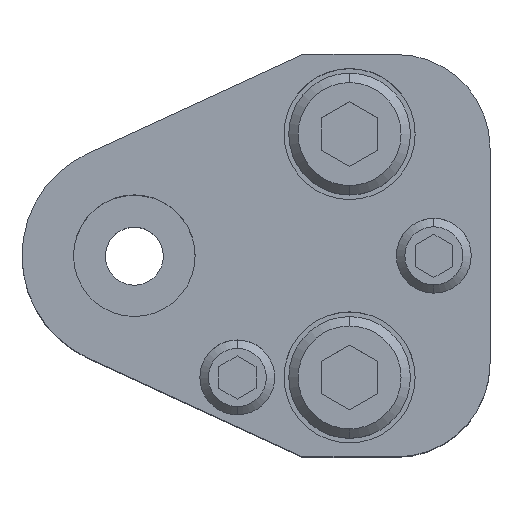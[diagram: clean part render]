
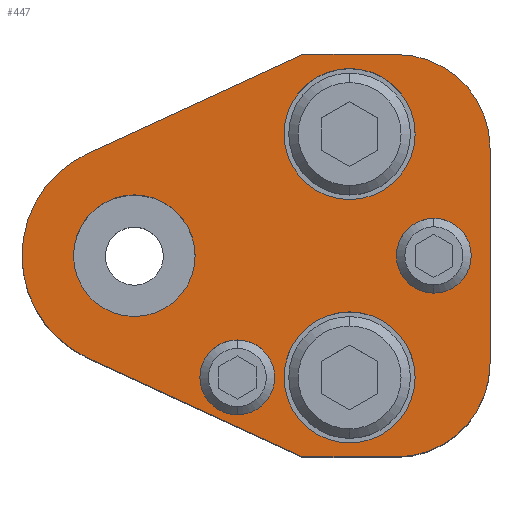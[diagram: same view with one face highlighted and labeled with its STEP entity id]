
A CAD part, top view. The second image highlights one B-rep face of the part: STEP entity #447.
In plain terms, the highlighted planar face has unit normal (0, 0, 1).
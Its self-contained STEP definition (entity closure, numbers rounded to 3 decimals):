
#206=FACE_BOUND('',#807,.T.);
#207=FACE_BOUND('',#808,.T.);
#208=FACE_BOUND('',#809,.T.);
#209=FACE_BOUND('',#810,.T.);
#210=FACE_BOUND('',#811,.T.);
#211=FACE_BOUND('',#812,.T.);
#269=CIRCLE('',#2664,10.);
#271=CIRCLE('',#2668,10.);
#274=CIRCLE('',#2673,12.);
#275=CIRCLE('',#2678,4.);
#277=CIRCLE('',#2681,4.);
#279=CIRCLE('',#2684,4.);
#281=CIRCLE('',#2687,4.);
#291=CIRCLE('',#2702,7.);
#292=CIRCLE('',#2703,7.);
#293=CIRCLE('',#2704,7.);
#294=CIRCLE('',#2705,7.);
#295=CIRCLE('',#2706,6.5);
#296=CIRCLE('',#2707,6.5);
#447=ADVANCED_FACE('',(#206,#207,#208,#209,#210,#211),#578,.T.);
#578=PLANE('',#2708);
#807=EDGE_LOOP('',(#1148,#1149,#1150,#1151,#1152,#1153,#1154,#1155));
#808=EDGE_LOOP('',(#1156,#1157));
#809=EDGE_LOOP('',(#1158,#1159));
#810=EDGE_LOOP('',(#1160,#1161));
#811=EDGE_LOOP('',(#1162,#1163));
#812=EDGE_LOOP('',(#1164,#1165));
#1148=ORIENTED_EDGE('',*,*,#1952,.T.);
#1149=ORIENTED_EDGE('',*,*,#1961,.T.);
#1150=ORIENTED_EDGE('',*,*,#1935,.T.);
#1151=ORIENTED_EDGE('',*,*,#1939,.T.);
#1152=ORIENTED_EDGE('',*,*,#1942,.T.);
#1153=ORIENTED_EDGE('',*,*,#1945,.T.);
#1154=ORIENTED_EDGE('',*,*,#1948,.T.);
#1155=ORIENTED_EDGE('',*,*,#1956,.T.);
#1156=ORIENTED_EDGE('',*,*,#1991,.F.);
#1157=ORIENTED_EDGE('',*,*,#1992,.F.);
#1158=ORIENTED_EDGE('',*,*,#1993,.F.);
#1159=ORIENTED_EDGE('',*,*,#1994,.F.);
#1160=ORIENTED_EDGE('',*,*,#1977,.F.);
#1161=ORIENTED_EDGE('',*,*,#1973,.F.);
#1162=ORIENTED_EDGE('',*,*,#1971,.F.);
#1163=ORIENTED_EDGE('',*,*,#1967,.F.);
#1164=ORIENTED_EDGE('',*,*,#1995,.T.);
#1165=ORIENTED_EDGE('',*,*,#1996,.T.);
#1686=VERTEX_POINT('',#3857);
#1687=VERTEX_POINT('',#3859);
#1690=VERTEX_POINT('',#3866);
#1692=VERTEX_POINT('',#3872);
#1694=VERTEX_POINT('',#3878);
#1696=VERTEX_POINT('',#3884);
#1699=VERTEX_POINT('',#3892);
#1700=VERTEX_POINT('',#3894);
#1708=VERTEX_POINT('',#3926);
#1709=VERTEX_POINT('',#3927);
#1712=VERTEX_POINT('',#3938);
#1713=VERTEX_POINT('',#3939);
#1724=VERTEX_POINT('',#3974);
#1725=VERTEX_POINT('',#3975);
#1726=VERTEX_POINT('',#3978);
#1727=VERTEX_POINT('',#3979);
#1728=VERTEX_POINT('',#3982);
#1729=VERTEX_POINT('',#3983);
#1935=EDGE_CURVE('',#1687,#1686,#2269,.T.);
#1939=EDGE_CURVE('',#1686,#1690,#269,.T.);
#1942=EDGE_CURVE('',#1690,#1692,#2274,.T.);
#1945=EDGE_CURVE('',#1692,#1694,#271,.T.);
#1948=EDGE_CURVE('',#1694,#1696,#2278,.T.);
#1952=EDGE_CURVE('',#1700,#1699,#274,.T.);
#1956=EDGE_CURVE('',#1696,#1700,#2284,.T.);
#1961=EDGE_CURVE('',#1699,#1687,#2289,.T.);
#1967=EDGE_CURVE('',#1708,#1709,#275,.T.);
#1971=EDGE_CURVE('',#1709,#1708,#277,.T.);
#1973=EDGE_CURVE('',#1712,#1713,#279,.T.);
#1977=EDGE_CURVE('',#1713,#1712,#281,.T.);
#1991=EDGE_CURVE('',#1724,#1725,#291,.T.);
#1992=EDGE_CURVE('',#1725,#1724,#292,.T.);
#1993=EDGE_CURVE('',#1726,#1727,#293,.T.);
#1994=EDGE_CURVE('',#1727,#1726,#294,.T.);
#1995=EDGE_CURVE('',#1728,#1729,#295,.T.);
#1996=EDGE_CURVE('',#1729,#1728,#296,.T.);
#2269=LINE('',#3858,#2467);
#2274=LINE('',#3873,#2472);
#2278=LINE('',#3885,#2476);
#2284=LINE('',#3901,#2482);
#2289=LINE('',#3909,#2487);
#2467=VECTOR('',#3061,1.);
#2472=VECTOR('',#3074,1.);
#2476=VECTOR('',#3086,1.);
#2482=VECTOR('',#3100,1.);
#2487=VECTOR('',#3107,1.);
#2664=AXIS2_PLACEMENT_3D('',#3867,#3067,#3068);
#2668=AXIS2_PLACEMENT_3D('',#3879,#3079,#3080);
#2673=AXIS2_PLACEMENT_3D('',#3893,#3093,#3094);
#2678=AXIS2_PLACEMENT_3D('',#3925,#3116,#3117);
#2681=AXIS2_PLACEMENT_3D('',#3934,#3124,#3125);
#2684=AXIS2_PLACEMENT_3D('',#3937,#3130,#3131);
#2687=AXIS2_PLACEMENT_3D('',#3946,#3138,#3139);
#2702=AXIS2_PLACEMENT_3D('',#3973,#3172,#3173);
#2703=AXIS2_PLACEMENT_3D('',#3976,#3174,#3175);
#2704=AXIS2_PLACEMENT_3D('',#3977,#3176,#3177);
#2705=AXIS2_PLACEMENT_3D('',#3980,#3178,#3179);
#2706=AXIS2_PLACEMENT_3D('',#3981,#3180,#3181);
#2707=AXIS2_PLACEMENT_3D('',#3984,#3182,#3183);
#2708=AXIS2_PLACEMENT_3D('',#3985,#3184,#3185);
#3061=DIRECTION('',(1.,0.,0.));
#3067=DIRECTION('',(0.,0.,1.));
#3068=DIRECTION('',(-0.707,0.707,0.));
#3074=DIRECTION('',(0.,1.,0.));
#3079=DIRECTION('',(0.,0.,1.));
#3080=DIRECTION('',(-0.707,-0.707,0.));
#3086=DIRECTION('',(-1.,0.,0.));
#3093=DIRECTION('',(0.,0.,1.));
#3094=DIRECTION('',(0.,1.,0.));
#3100=DIRECTION('',(-0.908,-0.418,0.));
#3107=DIRECTION('',(0.908,-0.418,0.));
#3116=DIRECTION('',(0.,0.,1.));
#3117=DIRECTION('',(1.,0.,0.));
#3124=DIRECTION('',(0.,0.,1.));
#3125=DIRECTION('',(-1.,0.,0.));
#3130=DIRECTION('',(0.,0.,1.));
#3131=DIRECTION('',(1.,0.,0.));
#3138=DIRECTION('',(0.,0.,1.));
#3139=DIRECTION('',(-1.,0.,0.));
#3172=DIRECTION('',(0.,0.,1.));
#3173=DIRECTION('',(1.,0.,0.));
#3174=DIRECTION('',(0.,0.,1.));
#3175=DIRECTION('',(-1.,0.,0.));
#3176=DIRECTION('',(0.,0.,1.));
#3177=DIRECTION('',(1.,0.,0.));
#3178=DIRECTION('',(0.,0.,1.));
#3179=DIRECTION('',(-1.,0.,0.));
#3180=DIRECTION('',(0.,0.,-1.));
#3181=DIRECTION('',(-1.,0.,0.));
#3182=DIRECTION('',(0.,0.,-1.));
#3183=DIRECTION('',(1.,0.,0.));
#3184=DIRECTION('',(0.,0.,1.));
#3185=DIRECTION('',(0.908,0.418,0.));
#3857=CARTESIAN_POINT('',(28.,-21.5,35.));
#3858=CARTESIAN_POINT('',(18.,-21.5,35.));
#3859=CARTESIAN_POINT('',(18.,-21.5,35.));
#3866=CARTESIAN_POINT('',(38.,-11.5,35.));
#3867=CARTESIAN_POINT('',(28.,-11.5,35.));
#3872=CARTESIAN_POINT('',(38.,11.5,35.));
#3873=CARTESIAN_POINT('',(38.,-11.5,35.));
#3878=CARTESIAN_POINT('',(28.,21.5,35.));
#3879=CARTESIAN_POINT('',(28.,11.5,35.));
#3884=CARTESIAN_POINT('',(18.,21.5,35.));
#3885=CARTESIAN_POINT('',(18.,21.5,35.));
#3892=CARTESIAN_POINT('',(-5.019,-10.9,35.));
#3893=CARTESIAN_POINT('',(0.,0.,35.));
#3894=CARTESIAN_POINT('',(-5.019,10.9,35.));
#3901=CARTESIAN_POINT('',(18.,21.5,35.));
#3909=CARTESIAN_POINT('',(18.,-21.5,35.));
#3925=CARTESIAN_POINT('',(11.,-13.,35.));
#3926=CARTESIAN_POINT('',(11.,-9.,35.));
#3927=CARTESIAN_POINT('',(11.,-17.,35.));
#3934=CARTESIAN_POINT('',(11.,-13.,35.));
#3937=CARTESIAN_POINT('',(32.,0.,35.));
#3938=CARTESIAN_POINT('',(32.,4.,35.));
#3939=CARTESIAN_POINT('',(32.,-4.,35.));
#3946=CARTESIAN_POINT('',(32.,0.,35.));
#3973=CARTESIAN_POINT('',(23.,-13.,35.));
#3974=CARTESIAN_POINT('',(23.,-6.,35.));
#3975=CARTESIAN_POINT('',(23.,-20.,35.));
#3976=CARTESIAN_POINT('',(23.,-13.,35.));
#3977=CARTESIAN_POINT('',(23.,13.,35.));
#3978=CARTESIAN_POINT('',(23.,20.,35.));
#3979=CARTESIAN_POINT('',(23.,6.,35.));
#3980=CARTESIAN_POINT('',(23.,13.,35.));
#3981=CARTESIAN_POINT('',(0.,0.,35.));
#3982=CARTESIAN_POINT('',(0.,6.5,35.));
#3983=CARTESIAN_POINT('',(0.,-6.5,35.));
#3984=CARTESIAN_POINT('',(0.,0.,35.));
#3985=CARTESIAN_POINT('',(-5.019,10.9,35.));
